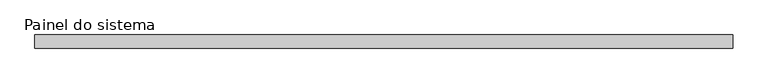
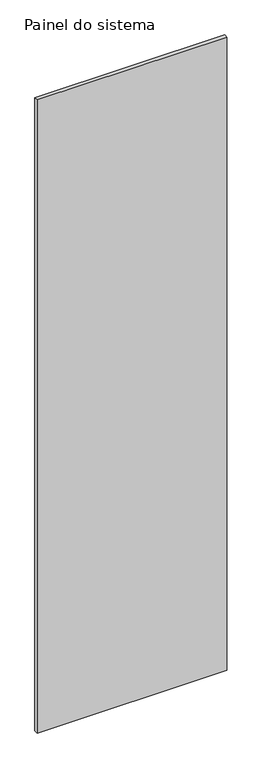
"""IFC4 building model written with IfcOpenShell, lengths in millimetres: plate geometry, Painel do sistema : Gradil Alambrado."""

from ifc_helpers import new_model, si_unit, origin, origin_with_axes, place, context, project, spatial, polyline, outline, extrude, source, transform, mapped, element, save


def painel_do_sistema_2d010810(model_context):
    return source(origin(), model_context, "Body", "SweptSolid", [
        extrude(outline(polyline([(643.6477428, -12.5), (-643.6477428, -12.5), (-643.6477428, 12.5), (643.6477428, 12.5), (643.6477428, -12.5)])), origin_with_axes(), (0.0, 0.0, 1.0), 4540.0),
    ])


if __name__ == "__main__":
    model = new_model("IFC4")
    model_context = context("Model", 3, world=origin())
    ifc_project = project(units=[si_unit("LENGTHUNIT", "METRE", prefix="MILLI")], contexts=[model_context])
    site = spatial("IfcSite", under=ifc_project)
    building = spatial("IfcBuilding", under=site)
    placement = place(None, origin())
    painel_do_sistema_shape = painel_do_sistema_2d010810(model_context)
    element("IfcPlate", 1, ObjectType="Painel do sistema : Gradil Alambrado", at=placement, inside=building, context=model_context, shape_type="MappedRepresentation", body=[
        mapped(painel_do_sistema_shape, transform((0.0, 0.0, 0.0), x_axis=(1.0, 0.0, 0.0), y_axis=(0.0, 1.0, 0.0), z_axis=(0.0, 0.0, 1.0))),
    ])
    save(model, "model.ifc")
